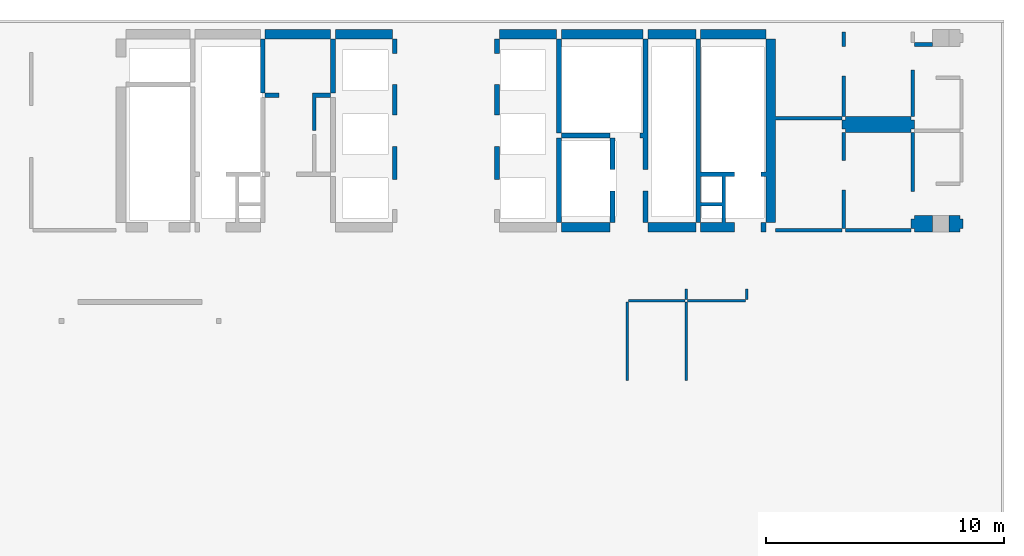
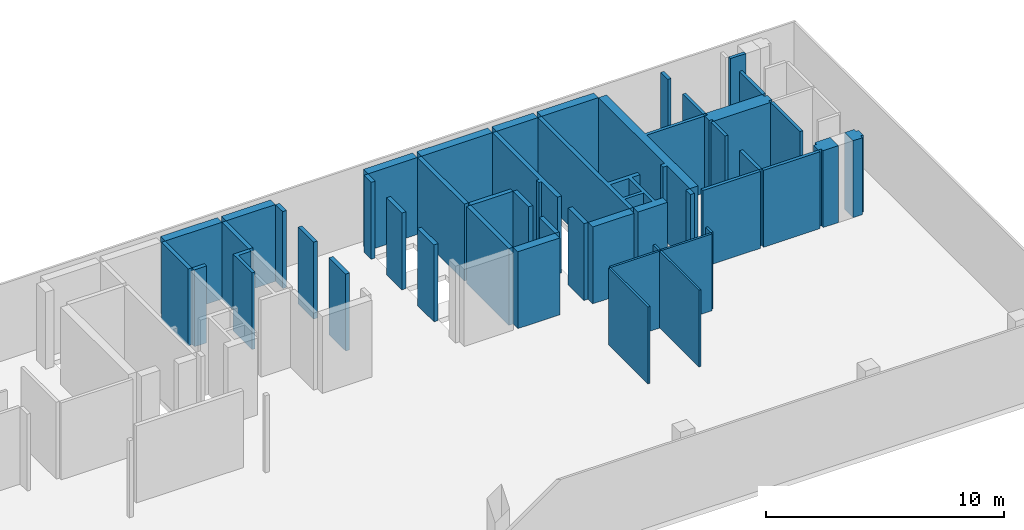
# One storey, part 2 of 4: 46 walls.
"""IFC4 building model written with IfcOpenShell, lengths in millimetres."""

from ifc_helpers import new_model, si_unit, frame, origin, place, context, project, spatial, triangles, element, save


model = new_model("IFC4")

# Units and contexts
model_context = context("Model", 3, precision=0.001, world=origin())
ifc_project = project(units=[si_unit("LENGTHUNIT", "METRE", prefix="MILLI"), si_unit("AREAUNIT", "SQUARE_METRE"), si_unit("VOLUMEUNIT", "CUBIC_METRE")], contexts=[model_context])

# Site, building, storey
site_placement = place(None, origin())
site = spatial("IfcSite", under=ifc_project, at=site_placement, Name="Site", CompositionType="ELEMENT")
building_placement = place(site_placement, origin())
building = spatial("IfcBuilding", under=site, at=building_placement, Name="INNOCEAN", CompositionType="ELEMENT")
storey_placement = place(building_placement, frame((0.0, 0.0, 38600.0)))
storey = spatial("IfcBuildingStorey", under=building, at=storey_placement, Name="F09", CompositionType="ELEMENT", Elevation=38600.0)

# Walls
wall_1_placement = place(storey_placement, origin())
element("IfcWall", 1, at=wall_1_placement, inside=storey, Name="F09_Walls_F09_019", context=model_context, shape_type="Tessellation", body=[
    triangles([(19374.1, 22765.0, 0.0), (19374.1, 25025.8, 0.0), (19374.1, 25025.8, 3950.0), (19374.1, 22765.0, 3950.0), (19183.7, 22765.0, 0.0), (19183.7, 22765.0, 3950.0), (19183.7, 25025.8, 0.0), (19183.7, 25025.8, 3950.0)], [[1, 2, 3], [1, 3, 4], [5, 1, 4], [5, 4, 6], [7, 5, 6], [7, 6, 8], [2, 7, 8], [2, 8, 3], [7, 2, 1], [7, 1, 5], [3, 8, 4], [4, 8, 6]], closed=True),
])
wall_2_placement = place(storey_placement, origin())
element("IfcWall", 2, at=wall_2_placement, inside=storey, Name="F09_Walls_F09_026", context=model_context, shape_type="Tessellation", body=[
    triangles([(33869.8, 17316.1, 0.0), (33869.8, 17316.1, 3950.0), (33869.8, 16922.4, 3950.0), (33869.8, 16922.4, 0.0), (31826.2, 16922.4, 0.0), (31826.2, 16922.4, 3950.0), (31826.2, 17316.1, 3950.0), (31826.2, 17316.1, 0.0)], [[1, 2, 3], [4, 1, 3], [5, 4, 3], [5, 3, 6], [5, 6, 7], [8, 5, 7], [1, 8, 7], [1, 7, 2], [8, 1, 4], [8, 4, 5], [2, 7, 3], [3, 7, 6]], closed=True),
])
wall_3_placement = place(storey_placement, origin())
element("IfcWall", 3, at=wall_3_placement, inside=storey, Name="F09_Walls_F09_030", context=model_context, shape_type="Tessellation", body=[
    triangles([(31826.2, 20872.5, 0.0), (31826.2, 20872.5, 3950.0), (31826.2, 17316.1, 3950.0), (31826.2, 17316.1, 0.0), (31623.1, 17316.1, 3950.0), (31623.1, 17316.1, 0.0), (31623.1, 20872.5, 3950.0), (31623.1, 20872.5, 0.0)], [[1, 2, 3], [4, 1, 3], [4, 3, 5], [6, 4, 5], [6, 5, 7], [8, 6, 7], [8, 7, 2], [1, 8, 2], [8, 1, 4], [8, 4, 6], [2, 7, 3], [3, 7, 5]], closed=True),
])
wall_4_placement = place(storey_placement, origin())
element("IfcWall", 4, at=wall_4_placement, inside=storey, Name="F09_Walls_F09_033", context=model_context, shape_type="Tessellation", body=[
    triangles([(29020.0, 20515.0, 0.0), (29020.0, 19120.0, 0.0), (29020.0, 19120.0, 3950.0), (29020.0, 20515.0, 3950.0), (29020.9, 20515.0, 0.0), (29020.9, 20515.0, 3950.0), (29020.9, 20516.8, 3950.0), (29020.9, 20516.8, 0.0), (29224.0, 20516.8, 0.0), (29224.0, 20516.8, 3950.0), (29224.0, 20515.0, 3950.0), (29224.0, 20515.0, 0.0), (29225.0, 20515.0, 0.0), (29225.0, 20515.0, 3950.0), (29225.0, 19120.0, 0.0), (29225.0, 19120.0, 3950.0), (29224.0, 19120.0, 0.0), (29224.0, 19120.0, 3950.0), (29224.0, 19119.7, 0.0), (29224.0, 19119.7, 3950.0), (29020.9, 19119.7, 0.0), (29020.9, 19119.7, 3950.0), (29020.9, 19120.0, 0.0), (29020.9, 19120.0, 3950.0)], [[1, 2, 3], [1, 3, 4], [5, 1, 4], [5, 4, 6], [5, 6, 7], [8, 5, 7], [9, 8, 7], [9, 7, 10], [9, 10, 11], [12, 9, 11], [13, 12, 11], [13, 11, 14], [15, 13, 14], [15, 14, 16], [17, 15, 16], [17, 16, 18], [19, 17, 18], [19, 18, 20], [21, 19, 20], [21, 20, 22], [23, 21, 22], [23, 22, 24], [2, 23, 24], [2, 24, 3], [23, 17, 19], [23, 19, 21], [12, 13, 15], [12, 15, 17], [12, 17, 23], [5, 12, 23], [1, 23, 2], [1, 5, 23], [8, 9, 12], [8, 12, 5], [18, 24, 20], [20, 24, 22], [14, 11, 16], [16, 11, 18], [18, 11, 24], [11, 6, 24], [24, 4, 3], [6, 4, 24], [10, 7, 11], [11, 7, 6]], closed=True),
])
wall_5_placement = place(storey_placement, origin())
element("IfcWall", 5, at=wall_5_placement, inside=storey, Name="F09_Walls_F09_034", context=model_context, shape_type="Tessellation", body=[
    triangles([(24730.0, 20515.0, 0.0), (24730.0, 19120.0, 0.0), (24730.0, 19120.0, 3950.0), (24730.0, 20515.0, 3950.0), (24730.6, 20515.0, 0.0), (24730.6, 20515.0, 3950.0), (24730.6, 20516.8, 3950.0), (24730.6, 20516.8, 0.0), (24921.0, 20516.8, 0.0), (24921.0, 20516.8, 3950.0), (24921.0, 19119.7, 0.0), (24921.0, 19119.7, 3950.0), (24730.6, 19119.7, 0.0), (24730.6, 19119.7, 3950.0), (24730.6, 19120.0, 0.0), (24730.6, 19120.0, 3950.0)], [[1, 2, 3], [1, 3, 4], [5, 1, 4], [5, 4, 6], [5, 6, 7], [8, 5, 7], [9, 8, 7], [9, 7, 10], [11, 9, 10], [11, 10, 12], [13, 11, 12], [13, 12, 14], [15, 13, 14], [15, 14, 16], [2, 15, 16], [2, 16, 3], [15, 11, 13], [5, 9, 11], [5, 11, 15], [1, 15, 2], [1, 5, 15], [8, 9, 5], [12, 16, 14], [10, 6, 12], [12, 6, 16], [16, 4, 3], [6, 4, 16], [10, 7, 6]], closed=True),
])
wall_6_placement = place(storey_placement, origin())
element("IfcWall", 6, at=wall_6_placement, inside=storey, Name="F09_Walls_F09_035", context=model_context, shape_type="Tessellation", body=[
    triangles([(34072.9, 19551.5, 0.0), (34072.9, 20872.5, 0.0), (34072.9, 20872.5, 3950.0), (34072.9, 19551.5, 3950.0), (33869.8, 19551.5, 0.0), (33869.8, 19551.5, 3950.0), (33869.8, 20872.5, 0.0), (33869.8, 20872.5, 3950.0)], [[1, 2, 3], [1, 3, 4], [5, 1, 4], [5, 4, 6], [7, 5, 6], [7, 6, 8], [2, 7, 8], [2, 8, 3], [7, 2, 1], [7, 1, 5], [3, 8, 4], [4, 8, 6]], closed=True),
])
wall_7_placement = place(storey_placement, origin())
element("IfcWall", 7, at=wall_7_placement, inside=storey, Name="F09_Walls_F09_036", context=model_context, shape_type="Tessellation", body=[
    triangles([(33869.8, 20872.5, 0.0), (33869.8, 21075.7, 0.0), (33869.8, 21075.7, 3950.0), (33869.8, 20872.5, 3950.0), (31826.2, 20872.5, 0.0), (31826.2, 20872.5, 3950.0), (31826.2, 21075.7, 0.0), (31826.2, 21075.7, 3950.0)], [[1, 2, 3], [1, 3, 4], [5, 1, 4], [5, 4, 6], [7, 5, 6], [7, 6, 8], [2, 7, 8], [2, 8, 3], [7, 2, 1], [7, 1, 5], [3, 8, 4], [4, 8, 6]], closed=True),
])
wall_8_placement = place(storey_placement, origin())
element("IfcWall", 8, at=wall_8_placement, inside=storey, Name="F09_Walls_F09_039", context=model_context, shape_type="Tessellation", body=[
    triangles([(22128.5, 22765.0, 0.0), (21366.9, 22765.0, 0.0), (21366.9, 22765.0, 3950.0), (22128.5, 22765.0, 3950.0), (22128.5, 22574.4, 3950.0), (22128.5, 22574.4, 0.0), (21519.3, 22574.4, 0.0), (21519.3, 22574.4, 3950.0), (21519.3, 21177.3, 0.0), (21519.3, 21177.3, 3950.0), (21366.9, 21177.3, 0.0), (21366.9, 21177.3, 3950.0), (21366.9, 22574.4, 0.0), (21366.9, 22574.4, 3950.0)], [[1, 2, 3], [1, 3, 4], [1, 4, 5], [6, 1, 5], [7, 6, 5], [7, 5, 8], [9, 7, 8], [9, 8, 10], [11, 9, 10], [11, 10, 12], [13, 11, 12], [13, 12, 14], [13, 14, 3], [2, 13, 3], [7, 1, 6], [13, 7, 9], [13, 9, 11], [2, 1, 7], [2, 7, 13], [4, 8, 5], [8, 14, 10], [10, 14, 12], [4, 3, 8], [8, 3, 14]], closed=True),
])
wall_9_placement = place(storey_placement, origin())
element("IfcWall", 9, at=wall_9_placement, inside=storey, Name="F09_Walls_F09_040", context=model_context, shape_type="Tessellation", body=[
    triangles([(24730.6, 23120.6, 0.0), (24730.6, 23120.0, 0.0), (24730.6, 23120.0, 3950.0), (24730.6, 23120.6, 3950.0), (24921.0, 23120.6, 0.0), (24921.0, 23120.6, 3950.0), (24921.0, 21825.1, 0.0), (24921.0, 21825.1, 3950.0), (24920.0, 21825.1, 0.0), (24920.0, 21825.1, 3950.0), (24920.0, 21825.0, 0.0), (24920.0, 21825.0, 3950.0), (24730.0, 21825.0, 0.0), (24730.0, 21825.0, 3950.0), (24730.0, 23120.0, 3950.0), (24730.0, 23120.0, 0.0)], [[1, 2, 3], [1, 3, 4], [5, 1, 4], [5, 4, 6], [7, 5, 6], [7, 6, 8], [9, 7, 8], [9, 8, 10], [11, 9, 10], [11, 10, 12], [13, 11, 12], [13, 12, 14], [13, 14, 15], [16, 13, 15], [2, 16, 15], [2, 15, 3], [13, 9, 11], [5, 7, 9], [2, 5, 9], [2, 9, 13], [1, 5, 2], [16, 2, 13], [10, 14, 12], [8, 6, 10], [6, 3, 10], [10, 3, 14], [6, 4, 3], [3, 15, 14]], closed=True),
])
wall_10_placement = place(storey_placement, origin())
element("IfcWall", 10, at=wall_10_placement, inside=storey, Name="F09_Walls_F09_041", context=model_context, shape_type="Tessellation", body=[
    triangles([(29225.0, 23120.0, 0.0), (29225.0, 23120.0, 3950.0), (29225.0, 21825.0, 3950.0), (29225.0, 21825.0, 0.0), (29020.0, 21825.0, 0.0), (29020.0, 21825.0, 3950.0), (29020.0, 23120.0, 3950.0), (29020.0, 23120.0, 0.0), (29020.9, 23120.0, 0.0), (29020.9, 23120.0, 3950.0), (29020.9, 23120.6, 0.0), (29020.9, 23120.6, 3950.0), (29224.0, 23120.6, 0.0), (29224.0, 23120.6, 3950.0), (29224.0, 23120.0, 0.0), (29224.0, 23120.0, 3950.0)], [[1, 2, 3], [4, 1, 3], [5, 4, 3], [5, 3, 6], [5, 6, 7], [8, 5, 7], [9, 8, 7], [9, 7, 10], [11, 9, 10], [11, 10, 12], [13, 11, 12], [13, 12, 14], [15, 13, 14], [15, 14, 16], [1, 15, 16], [1, 16, 2], [15, 1, 4], [15, 4, 5], [9, 15, 5], [11, 13, 15], [11, 15, 9], [8, 9, 5], [2, 16, 3], [3, 16, 6], [16, 10, 6], [14, 12, 16], [16, 12, 10], [10, 7, 6]], closed=True),
])
wall_11_placement = place(storey_placement, origin())
element("IfcWall", 11, at=wall_11_placement, inside=storey, Name="F09_Walls_F09_042", context=model_context, shape_type="Tessellation", body=[
    triangles([(19970.7, 22765.0, 0.0), (19970.7, 22765.0, 3950.0), (19970.7, 22574.4, 3950.0), (19970.7, 22574.4, 0.0), (19374.1, 22574.4, 0.0), (19374.1, 22574.4, 3950.0), (19374.1, 22765.0, 3950.0), (19374.1, 22765.0, 0.0)], [[1, 2, 3], [4, 1, 3], [5, 4, 3], [5, 3, 6], [5, 6, 7], [8, 5, 7], [1, 8, 7], [1, 7, 2], [8, 1, 4], [8, 4, 5], [2, 7, 3], [3, 7, 6]], closed=True),
])
wall_12_placement = place(storey_placement, origin())
element("IfcWall", 12, at=wall_12_placement, inside=storey, Name="F09_Walls_F09_043", context=model_context, shape_type="Tessellation", body=[
    triangles([(31826.2, 21075.7, 3950.0), (31826.2, 25025.8, 0.0), (31826.2, 25025.8, 3950.0), (31826.2, 21075.7, 0.0), (31623.1, 21075.7, 3950.0), (31623.1, 21075.7, 0.0), (31623.1, 25025.8, 3950.0), (31623.1, 25025.8, 0.0)], [[1, 2, 3], [4, 2, 1], [4, 1, 5], [6, 4, 5], [7, 6, 5], [8, 6, 7], [8, 7, 3], [2, 8, 3], [2, 4, 6], [8, 2, 6], [1, 3, 5], [3, 7, 5]], closed=True),
])
wall_13_placement = place(storey_placement, origin())
element("IfcWall", 13, at=wall_13_placement, inside=storey, Name="F09_Walls_F09_044", context=model_context, shape_type="Tessellation", body=[
    triangles([(22331.6, 22765.0, 0.0), (22331.6, 25025.8, 0.0), (22331.6, 25025.8, 3950.0), (22331.6, 22765.0, 3950.0), (22128.5, 22765.0, 0.0), (22128.5, 22765.0, 3950.0), (22128.5, 25025.8, 0.0), (22128.5, 25025.8, 3950.0)], [[1, 2, 3], [1, 3, 4], [5, 1, 4], [5, 4, 6], [7, 5, 6], [7, 6, 8], [2, 7, 8], [2, 8, 3], [7, 2, 1], [7, 1, 5], [3, 8, 4], [4, 8, 6]], closed=True),
])
wall_14_placement = place(storey_placement, origin())
element("IfcWall", 14, at=wall_14_placement, inside=storey, Name="F09_Walls_F09_045", context=model_context, shape_type="Tessellation", body=[
    triangles([(29224.0, 24416.1, 0.0), (29224.0, 25025.8, 0.0), (29224.0, 25025.8, 3950.0), (29224.0, 24416.1, 3950.0), (29020.9, 24416.1, 0.0), (29020.9, 24416.1, 3950.0), (29020.9, 25025.8, 0.0), (29020.9, 25025.8, 3950.0)], [[1, 2, 3], [1, 3, 4], [5, 1, 4], [5, 4, 6], [7, 5, 6], [7, 6, 8], [2, 7, 8], [2, 8, 3], [7, 2, 1], [7, 1, 5], [3, 8, 4], [4, 8, 6]], closed=True),
])
wall_15_placement = place(storey_placement, origin())
element("IfcWall", 15, at=wall_15_placement, inside=storey, Name="F09_Walls_F09_046", context=model_context, shape_type="Tessellation", body=[
    triangles([(24730.6, 25025.8, 0.0), (24730.6, 24416.1, 0.0), (24730.6, 24416.1, 3950.0), (24730.6, 25025.8, 3950.0), (24921.0, 25025.8, 0.0), (24921.0, 25025.8, 3950.0), (24921.0, 24416.1, 0.0), (24921.0, 24416.1, 3950.0)], [[1, 2, 3], [1, 3, 4], [5, 1, 4], [5, 4, 6], [7, 5, 6], [7, 6, 8], [2, 7, 8], [2, 8, 3], [1, 5, 7], [1, 7, 2], [6, 4, 8], [8, 4, 3]], closed=True),
])
wall_16_placement = place(storey_placement, origin())
element("IfcWall", 16, at=wall_16_placement, inside=storey, Name="F09_Walls_F09_047", context=model_context, shape_type="Tessellation", body=[
    triangles([(22331.6, 25025.8, 0.0), (24730.6, 25025.8, 0.0), (24730.6, 25025.8, 3950.0), (22331.6, 25025.8, 3950.0), (22331.6, 25419.5, 0.0), (22331.6, 25419.5, 3950.0), (24730.6, 25419.5, 0.0), (24730.6, 25419.5, 3950.0)], [[1, 2, 3], [1, 3, 4], [5, 1, 4], [5, 4, 6], [7, 5, 6], [7, 6, 8], [2, 7, 8], [2, 8, 3], [5, 2, 1], [5, 7, 2], [3, 6, 4], [8, 6, 3]], closed=True),
])
wall_17_placement = place(storey_placement, origin())
element("IfcWall", 17, at=wall_17_placement, inside=storey, Name="F09_Walls_F09_048", context=model_context, shape_type="Tessellation", body=[
    triangles([(29224.0, 25025.8, 0.0), (31623.1, 25025.8, 0.0), (31623.1, 25025.8, 3950.0), (29224.0, 25025.8, 3950.0), (29224.0, 25419.5, 0.0), (29224.0, 25419.5, 3950.0), (31623.1, 25419.5, 0.0), (31623.1, 25419.5, 3950.0)], [[1, 2, 3], [1, 3, 4], [5, 1, 4], [5, 4, 6], [7, 5, 6], [7, 6, 8], [2, 7, 8], [2, 8, 3], [5, 2, 1], [5, 7, 2], [3, 6, 4], [8, 6, 3]], closed=True),
])
wall_18_placement = place(storey_placement, origin())
element("IfcWall", 18, at=wall_18_placement, inside=storey, Name="F09_Walls_F09_049", context=model_context, shape_type="Tessellation", body=[
    triangles([(22128.5, 25025.8, 0.0), (22128.5, 25419.5, 0.0), (22128.5, 25419.5, 3950.0), (22128.5, 25025.8, 3950.0), (19374.1, 25025.8, 0.0), (19374.1, 25025.8, 3950.0), (19374.1, 25419.5, 0.0), (19374.1, 25419.5, 3950.0)], [[1, 2, 3], [1, 3, 4], [5, 1, 4], [5, 4, 6], [7, 5, 6], [7, 6, 8], [2, 7, 8], [2, 8, 3], [7, 2, 1], [7, 1, 5], [3, 8, 4], [4, 8, 6]], closed=True),
])
wall_19_placement = place(storey_placement, origin())
element("IfcWall", 19, at=wall_19_placement, inside=storey, Name="F09_Walls_F09_050", context=model_context, shape_type="Tessellation", body=[
    triangles([(35266.0, 25025.8, 0.0), (35266.0, 25419.5, 0.0), (35266.0, 25419.5, 3950.0), (35266.0, 25025.8, 3950.0), (31826.2, 25025.8, 0.0), (31826.2, 25025.8, 3950.0), (31826.2, 25419.5, 0.0), (31826.2, 25419.5, 3950.0)], [[1, 2, 3], [1, 3, 4], [5, 1, 4], [5, 4, 6], [7, 5, 6], [7, 6, 8], [2, 7, 8], [2, 8, 3], [7, 2, 1], [7, 1, 5], [3, 8, 4], [4, 8, 6]], closed=True),
])
wall_20_placement = place(storey_placement, origin())
element("IfcWall", 20, at=wall_20_placement, inside=storey, Name="F09_Walls_F09_051", context=model_context, shape_type="Tessellation", body=[
    triangles([(34644.0, 10673.3, 0.0), (34644.0, 13975.7, 0.0), (34644.0, 13975.7, 3950.0), (34644.0, 10673.3, 3950.0), (34542.5, 10673.3, 0.0), (34542.5, 10673.3, 3950.0), (34542.5, 13975.7, 0.0), (34542.5, 13975.7, 3950.0)], [[1, 2, 3], [1, 3, 4], [5, 1, 4], [5, 4, 6], [7, 5, 6], [7, 6, 8], [2, 7, 8], [2, 8, 3], [7, 2, 1], [7, 1, 5], [3, 8, 4], [4, 8, 6]], closed=True),
])
wall_21_placement = place(storey_placement, origin())
element("IfcWall", 21, at=wall_21_placement, inside=storey, Name="F09_Walls_F09_052", context=model_context, shape_type="Tessellation", body=[
    triangles([(37119.2, 10673.3, 0.0), (37119.2, 13975.7, 0.0), (37119.2, 13975.7, 3950.0), (37119.2, 10673.3, 3950.0), (37017.7, 10673.3, 0.0), (37017.7, 10673.3, 3950.0), (37017.7, 13975.7, 0.0), (37017.7, 13975.7, 3950.0)], [[1, 2, 3], [1, 3, 4], [5, 1, 4], [5, 4, 6], [7, 5, 6], [7, 6, 8], [2, 7, 8], [2, 8, 3], [7, 2, 1], [7, 1, 5], [3, 8, 4], [4, 8, 6]], closed=True),
])
wall_22_placement = place(storey_placement, origin())
element("IfcWall", 22, at=wall_22_placement, inside=storey, Name="F09_Walls_F09_053", context=model_context, shape_type="Tessellation", body=[
    triangles([(37017.7, 13975.7, 0.0), (37017.7, 14077.3, 0.0), (37017.7, 14077.3, 3950.0), (37017.7, 13975.7, 3950.0), (34644.0, 13975.7, 0.0), (34644.0, 13975.7, 3950.0), (34644.0, 14077.3, 0.0), (34644.0, 14077.3, 3950.0)], [[1, 2, 3], [1, 3, 4], [5, 1, 4], [5, 4, 6], [7, 5, 6], [7, 6, 8], [2, 7, 8], [2, 8, 3], [7, 2, 1], [7, 1, 5], [3, 8, 4], [4, 8, 6]], closed=True),
])
wall_23_placement = place(storey_placement, origin())
element("IfcWall", 23, at=wall_23_placement, inside=storey, Name="F09_Walls_F09_054", context=model_context, shape_type="Tessellation", body=[
    triangles([(39569.0, 13975.7, 0.0), (39569.0, 14077.3, 0.0), (39569.0, 14077.3, 3950.0), (39569.0, 13975.7, 3950.0), (37119.2, 13975.7, 0.0), (37119.2, 13975.7, 3950.0), (37119.2, 14077.3, 0.0), (37119.2, 14077.3, 3950.0)], [[1, 2, 3], [1, 3, 4], [5, 1, 4], [5, 4, 6], [7, 5, 6], [7, 6, 8], [2, 7, 8], [2, 8, 3], [5, 2, 1], [7, 2, 5], [3, 6, 4], [3, 8, 6]], closed=True),
])
wall_24_placement = place(storey_placement, origin())
element("IfcWall", 24, at=wall_24_placement, inside=storey, Name="F09_Walls_F09_055", context=model_context, shape_type="Tessellation", body=[
    triangles([(39670.6, 14077.3, 0.0), (39670.6, 14521.8, 0.0), (39670.6, 14521.8, 3950.0), (39670.6, 14077.3, 3950.0), (39569.0, 14077.3, 0.0), (39569.0, 14077.3, 3950.0), (39569.0, 14521.8, 0.0), (39569.0, 14521.8, 3950.0)], [[1, 2, 3], [1, 3, 4], [5, 1, 4], [5, 4, 6], [7, 5, 6], [7, 6, 8], [2, 7, 8], [2, 8, 3], [7, 2, 1], [7, 1, 5], [3, 8, 4], [4, 8, 6]], closed=True),
])
wall_25_placement = place(storey_placement, origin())
element("IfcWall", 25, at=wall_25_placement, inside=storey, Name="F09_Walls_F09_056", context=model_context, shape_type="Tessellation", body=[
    triangles([(37119.2, 14077.3, 0.0), (37119.2, 14521.8, 0.0), (37119.2, 14521.8, 3950.0), (37119.2, 14077.3, 3950.0), (37017.7, 14077.3, 0.0), (37017.7, 14077.3, 3950.0), (37017.7, 14521.8, 0.0), (37017.7, 14521.8, 3950.0)], [[1, 2, 3], [1, 3, 4], [5, 1, 4], [5, 4, 6], [7, 5, 6], [7, 6, 8], [2, 7, 8], [2, 8, 3], [7, 2, 1], [7, 1, 5], [3, 8, 4], [4, 8, 6]], closed=True),
])
wall_26_placement = place(storey_placement, origin())
element("IfcWall", 26, at=wall_26_placement, inside=storey, Name="F09_Walls_F09_057", context=model_context, shape_type="Tessellation", body=[
    triangles([(43618.2, 16922.4, 0.0), (43618.2, 17074.8, 0.0), (43618.2, 17074.8, 3950.0), (43618.2, 16922.4, 3950.0), (40813.0, 16922.4, 0.0), (40813.0, 16922.4, 3950.0), (40813.0, 17074.8, 0.0), (40813.0, 17074.8, 3950.0)], [[1, 2, 3], [1, 3, 4], [5, 1, 4], [5, 4, 6], [7, 5, 6], [7, 6, 8], [2, 7, 8], [2, 8, 3], [5, 2, 1], [7, 2, 5], [3, 6, 4], [3, 8, 6]], closed=True),
])
wall_27_placement = place(storey_placement, origin())
element("IfcWall", 27, at=wall_27_placement, inside=storey, Name="F09_Walls_F09_058", context=model_context, shape_type="Tessellation", body=[
    triangles([(37665.0, 16922.4, 0.0), (37665.0, 16922.4, 3950.0), (37665.0, 17316.1, 3950.0), (37665.0, 17316.1, 0.0), (39099.4, 16922.4, 0.0), (39099.4, 16922.4, 3950.0), (39099.4, 17316.1, 0.0), (39099.4, 17316.1, 3950.0), (38720.0, 17316.1, 0.0), (38720.0, 17316.1, 3950.0), (38720.0, 19245.0, 0.0), (38720.0, 19245.0, 3950.0), (39100.0, 19245.0, 0.0), (39100.0, 19245.0, 3950.0), (39100.0, 19450.0, 0.0), (39100.0, 19450.0, 3950.0), (37665.0, 19450.0, 0.0), (37665.0, 19450.0, 3950.0), (37665.0, 25025.8, 0.0), (37665.0, 25025.8, 3950.0), (37474.6, 25025.8, 0.0), (37474.6, 25025.8, 3950.0), (37474.6, 19449.9, 0.0), (37474.6, 19449.9, 3950.0), (37474.6, 17316.1, 0.0), (37474.6, 17316.1, 3950.0), (37665.0, 18014.7, 0.0), (37665.0, 18014.7, 3950.0), (38565.0, 18014.7, 0.0), (38565.0, 18014.7, 3950.0), (38565.0, 17316.1, 0.0), (38565.0, 17316.1, 3950.0), (38565.0, 19245.0, 0.0), (38565.0, 18167.1, 0.0), (38565.0, 18167.1, 3950.0), (38565.0, 19245.0, 3950.0), (37665.0, 18167.1, 0.0), (37665.0, 18167.1, 3950.0), (37665.0, 19245.0, 0.0), (37665.0, 19245.0, 3950.0)], [[1, 2, 3], [4, 1, 3], [1, 5, 6], [1, 6, 2], [7, 8, 6], [5, 7, 6], [7, 9, 10], [7, 10, 8], [9, 11, 12], [9, 12, 10], [13, 14, 12], [11, 13, 12], [13, 15, 16], [13, 16, 14], [15, 17, 18], [15, 18, 16], [17, 19, 20], [17, 20, 18], [19, 21, 22], [19, 22, 20], [21, 23, 24], [21, 24, 22], [23, 25, 26], [23, 26, 24], [25, 4, 3], [25, 3, 26], [4, 27, 28], [4, 28, 3], [27, 29, 30], [27, 30, 28], [29, 31, 32], [29, 32, 30], [31, 4, 3], [31, 3, 32], [33, 34, 35], [33, 35, 36], [34, 37, 38], [34, 38, 35], [37, 39, 40], [37, 40, 38], [39, 33, 36], [39, 36, 40], [9, 7, 5], [31, 9, 5], [1, 31, 5], [29, 9, 31], [4, 31, 1], [27, 4, 25], [37, 29, 27], [37, 34, 29], [37, 27, 25], [11, 15, 13], [33, 11, 34], [33, 15, 11], [17, 33, 39], [17, 15, 33], [23, 39, 37], [23, 17, 39], [23, 37, 25], [21, 19, 17], [21, 17, 23], [11, 9, 29], [11, 29, 34], [8, 10, 6], [10, 32, 6], [32, 2, 6], [10, 30, 32], [32, 3, 2], [3, 28, 26], [30, 38, 28], [35, 38, 30], [28, 38, 26], [16, 12, 14], [12, 36, 35], [16, 36, 12], [36, 18, 40], [16, 18, 36], [40, 24, 38], [18, 24, 40], [38, 24, 26], [20, 22, 18], [18, 22, 24], [10, 12, 30], [30, 12, 35]], closed=True),
])
wall_28_placement = place(storey_placement, origin())
element("IfcWall", 28, at=wall_28_placement, inside=storey, Name="F09_Walls_F09_059", context=model_context, shape_type="Tessellation", body=[
    triangles([(40419.5, 17316.1, 0.0), (40419.5, 17316.1, 3950.0), (40419.5, 16922.4, 3950.0), (40419.5, 16922.4, 0.0), (40216.4, 16922.4, 0.0), (40216.4, 16922.4, 3950.0), (40216.4, 17316.1, 3950.0), (40216.4, 17316.1, 0.0)], [[1, 2, 3], [4, 1, 3], [5, 4, 3], [5, 3, 6], [5, 6, 7], [8, 5, 7], [1, 8, 7], [1, 7, 2], [8, 1, 4], [8, 4, 5], [2, 7, 3], [3, 7, 6]], closed=True),
])
wall_29_placement = place(storey_placement, origin())
element("IfcWall", 29, at=wall_29_placement, inside=storey, Name="F09_Walls_F09_060", context=model_context, shape_type="Tessellation", body=[
    triangles([(37474.6, 17316.1, 0.0), (37474.6, 17316.1, 3950.0), (37474.6, 16922.4, 3950.0), (37474.6, 16922.4, 0.0), (35469.1, 16922.4, 0.0), (35469.1, 16922.4, 3950.0), (35469.1, 17316.1, 3950.0), (35469.1, 17316.1, 0.0)], [[1, 2, 3], [4, 1, 3], [5, 4, 3], [5, 3, 6], [5, 6, 7], [8, 5, 7], [1, 8, 7], [1, 7, 2], [8, 1, 4], [8, 4, 5], [2, 7, 3], [3, 7, 6]], closed=True),
])
wall_30_placement = place(storey_placement, origin())
element("IfcWall", 30, at=wall_30_placement, inside=storey, Name="F09_Walls_F09_061", context=model_context, shape_type="Tessellation", body=[
    triangles([(43770.5, 17074.8, 0.0), (43770.5, 18675.1, 0.0), (43770.5, 18675.1, 3950.0), (43770.5, 17074.8, 3950.0), (43618.2, 17074.8, 0.0), (43618.2, 17074.8, 3950.0), (43618.2, 18675.1, 0.0), (43618.2, 18675.1, 3950.0)], [[1, 2, 3], [1, 3, 4], [5, 1, 4], [5, 4, 6], [7, 5, 6], [7, 6, 8], [2, 7, 8], [2, 8, 3], [2, 1, 5], [7, 2, 5], [4, 3, 6], [3, 8, 6]], closed=True),
])
wall_31_placement = place(storey_placement, origin())
element("IfcWall", 31, at=wall_31_placement, inside=storey, Name="F09_Walls_F09_062", context=model_context, shape_type="Tessellation", body=[
    triangles([(34072.9, 17316.1, 0.0), (34072.9, 18649.7, 0.0), (34072.9, 18649.7, 3950.0), (34072.9, 17316.1, 3950.0), (33869.8, 17316.1, 0.0), (33869.8, 17316.1, 3950.0), (33869.8, 18649.7, 0.0), (33869.8, 18649.7, 3950.0)], [[1, 2, 3], [1, 3, 4], [5, 1, 4], [5, 4, 6], [7, 5, 6], [7, 6, 8], [2, 7, 8], [2, 8, 3], [7, 2, 1], [7, 1, 5], [3, 8, 4], [4, 8, 6]], closed=True),
])
wall_32_placement = place(storey_placement, origin())
element("IfcWall", 32, at=wall_32_placement, inside=storey, Name="F09_Walls_F09_063", context=model_context, shape_type="Tessellation", body=[
    triangles([(35469.1, 17316.1, 0.0), (35469.1, 18649.7, 0.0), (35469.1, 18649.7, 3950.0), (35469.1, 17316.1, 3950.0), (35266.0, 17316.1, 0.0), (35266.0, 17316.1, 3950.0), (35266.0, 18649.7, 0.0), (35266.0, 18649.7, 3950.0)], [[1, 2, 3], [1, 3, 4], [5, 1, 4], [5, 4, 6], [7, 5, 6], [7, 6, 8], [2, 7, 8], [2, 8, 3], [7, 2, 1], [7, 1, 5], [3, 8, 4], [4, 8, 6]], closed=True),
])
wall_33_placement = place(storey_placement, origin())
element("IfcWall", 33, at=wall_33_placement, inside=storey, Name="F09_Walls_F09_064", context=model_context, shape_type="Tessellation", body=[
    triangles([(40813.0, 21774.3, 0.0), (40813.0, 25025.8, 0.0), (40813.0, 25025.8, 3950.0), (40813.0, 21774.3, 3950.0), (43618.2, 21774.3, 0.0), (43618.2, 21774.3, 3950.0), (43618.2, 21621.8, 0.0), (43618.2, 21621.8, 3950.0), (40813.0, 21621.8, 0.0), (40813.0, 21621.8, 3950.0), (40813.0, 19449.9, 0.0), (40813.0, 19449.9, 3950.0), (40813.0, 17316.1, 0.0), (40813.0, 17316.1, 3950.0), (40419.5, 17316.1, 0.0), (40419.5, 17316.1, 3950.0), (40419.5, 19245.0, 0.0), (40419.5, 19245.0, 3950.0), (40215.0, 19245.0, 3950.0), (40215.0, 19245.0, 0.0), (40215.0, 19450.0, 0.0), (40215.0, 19450.0, 3950.0), (40419.5, 19450.0, 3950.0), (40419.5, 19450.0, 0.0), (40419.5, 25025.8, 0.0), (40419.5, 25025.8, 3950.0)], [[1, 2, 3], [1, 3, 4], [5, 1, 4], [5, 4, 6], [7, 5, 6], [7, 6, 8], [9, 7, 8], [9, 8, 10], [11, 9, 10], [11, 10, 12], [13, 11, 12], [13, 12, 14], [15, 13, 14], [15, 14, 16], [17, 15, 16], [17, 16, 18], [17, 18, 19], [20, 17, 19], [21, 20, 19], [21, 19, 22], [21, 22, 23], [24, 21, 23], [25, 24, 23], [25, 23, 26], [2, 25, 26], [2, 26, 3], [17, 11, 13], [17, 13, 15], [24, 17, 20], [24, 11, 17], [21, 24, 20], [9, 11, 24], [1, 5, 7], [1, 7, 9], [25, 2, 1], [24, 25, 1], [24, 1, 9], [12, 18, 14], [14, 18, 16], [18, 23, 19], [12, 23, 18], [23, 22, 19], [12, 10, 23], [6, 4, 8], [8, 4, 10], [3, 26, 4], [26, 23, 4], [4, 23, 10]], closed=True),
])
wall_34_placement = place(storey_placement, origin())
element("IfcWall", 34, at=wall_34_placement, inside=storey, Name="F09_Walls_F09_065", context=model_context, shape_type="Tessellation", body=[
    triangles([(35266.0, 21075.7, 0.0), (35126.4, 21075.7, 0.0), (35126.4, 21075.7, 3950.0), (35266.0, 21075.7, 3950.0), (35266.0, 25025.8, 3950.0), (35266.0, 25025.8, 0.0), (35469.1, 25025.8, 0.0), (35469.1, 25025.8, 3950.0), (35469.1, 21075.7, 3950.0), (35469.1, 21075.7, 0.0), (35469.1, 20872.5, 0.0), (35469.1, 20872.5, 3950.0), (35469.1, 19551.5, 0.0), (35469.1, 19551.5, 3950.0), (35266.0, 19551.5, 0.0), (35266.0, 19551.5, 3950.0), (35266.0, 20872.5, 0.0), (35266.0, 20872.5, 3950.0), (35126.4, 20872.5, 0.0), (35126.4, 20872.5, 3950.0)], [[1, 2, 3], [1, 3, 4], [5, 1, 4], [6, 1, 5], [7, 6, 5], [7, 5, 8], [9, 7, 8], [10, 7, 9], [11, 10, 9], [11, 9, 12], [13, 11, 12], [13, 12, 14], [15, 13, 14], [15, 14, 16], [17, 15, 16], [17, 16, 18], [19, 17, 18], [19, 18, 20], [2, 19, 20], [2, 20, 3], [17, 11, 13], [17, 13, 15], [10, 11, 17], [1, 10, 17], [2, 17, 19], [2, 1, 17], [6, 7, 10], [6, 10, 1], [12, 18, 14], [14, 18, 16], [12, 9, 18], [9, 4, 18], [18, 3, 20], [4, 3, 18], [8, 5, 9], [9, 5, 4]], closed=True),
])
wall_35_placement = place(storey_placement, origin())
element("IfcWall", 35, at=wall_35_placement, inside=storey, Name="F09_Walls_F09_066", context=model_context, shape_type="Tessellation", body=[
    triangles([(43620.0, 24721.0, 0.0), (43620.0, 24720.0, 0.0), (43620.0, 24720.0, 3950.0), (43620.0, 24721.0, 3950.0), (43618.2, 24721.0, 3950.0), (43618.2, 24721.0, 0.0), (43618.2, 25317.9, 0.0), (43618.2, 25317.9, 3950.0), (43620.0, 25317.9, 3950.0), (43620.0, 25317.9, 0.0), (43620.0, 25320.0, 0.0), (43620.0, 25320.0, 3950.0), (43770.0, 25320.0, 3950.0), (43770.0, 25320.0, 0.0), (43770.0, 25317.9, 0.0), (43770.0, 25317.9, 3950.0), (43770.5, 25317.9, 0.0), (43770.5, 25317.9, 3950.0), (43770.5, 24721.0, 0.0), (43770.5, 24721.0, 3950.0), (43770.0, 24721.0, 0.0), (43770.0, 24721.0, 3950.0), (43770.0, 24720.0, 0.0), (43770.0, 24720.0, 3950.0)], [[1, 2, 3], [1, 3, 4], [1, 4, 5], [6, 1, 5], [7, 6, 5], [7, 5, 8], [7, 8, 9], [10, 7, 9], [11, 10, 9], [11, 9, 12], [11, 12, 13], [14, 11, 13], [15, 14, 13], [15, 13, 16], [17, 15, 16], [17, 16, 18], [19, 17, 18], [19, 18, 20], [21, 19, 20], [21, 20, 22], [23, 21, 22], [23, 22, 24], [23, 24, 3], [2, 23, 3], [1, 21, 23], [1, 23, 2], [17, 19, 21], [15, 21, 1], [15, 17, 21], [10, 15, 1], [7, 1, 6], [7, 10, 1], [11, 14, 15], [11, 15, 10], [22, 4, 24], [24, 4, 3], [20, 18, 22], [22, 16, 4], [18, 16, 22], [16, 9, 4], [4, 8, 5], [9, 8, 4], [13, 12, 16], [16, 12, 9]], closed=True),
])
wall_36_placement = place(storey_placement, origin())
element("IfcWall", 36, at=wall_36_placement, inside=storey, Name="F09_Walls_F09_067", context=model_context, shape_type="Tessellation", body=[
    triangles([(37474.6, 25025.8, 0.0), (37474.6, 25419.5, 0.0), (37474.6, 25419.5, 3950.0), (37474.6, 25025.8, 3950.0), (35469.1, 25025.8, 0.0), (35469.1, 25025.8, 3950.0), (35469.1, 25419.5, 0.0), (35469.1, 25419.5, 3950.0)], [[1, 2, 3], [1, 3, 4], [5, 1, 4], [5, 4, 6], [7, 5, 6], [7, 6, 8], [2, 7, 8], [2, 8, 3], [7, 2, 1], [7, 1, 5], [3, 8, 4], [4, 8, 6]], closed=True),
])
wall_37_placement = place(storey_placement, origin())
element("IfcWall", 37, at=wall_37_placement, inside=storey, Name="F09_Walls_F09_068", context=model_context, shape_type="Tessellation", body=[
    triangles([(40419.5, 25025.8, 0.0), (40419.5, 25419.5, 0.0), (40419.5, 25419.5, 3950.0), (40419.5, 25025.8, 3950.0), (37665.0, 25025.8, 0.0), (37665.0, 25025.8, 3950.0), (37665.0, 25419.5, 0.0), (37665.0, 25419.5, 3950.0)], [[1, 2, 3], [1, 3, 4], [5, 1, 4], [5, 4, 6], [7, 5, 6], [7, 6, 8], [2, 7, 8], [2, 8, 3], [7, 2, 1], [7, 1, 5], [3, 8, 4], [4, 8, 6]], closed=True),
])
wall_38_placement = place(storey_placement, origin())
element("IfcWall", 38, at=wall_38_placement, inside=storey, Name="F09_Walls_F09_069", context=model_context, shape_type="Tessellation", body=[
    triangles([(46512.2, 16922.4, 0.0), (46512.2, 17074.8, 0.0), (46512.2, 17074.8, 3950.0), (46512.2, 16922.4, 3950.0), (43770.5, 16922.4, 0.0), (43770.5, 16922.4, 3950.0), (43770.5, 17074.8, 0.0), (43770.5, 17074.8, 3950.0)], [[1, 2, 3], [1, 3, 4], [5, 1, 4], [5, 4, 6], [7, 5, 6], [7, 6, 8], [2, 7, 8], [2, 8, 3], [7, 2, 1], [7, 1, 5], [3, 8, 4], [4, 8, 6]], closed=True),
])
wall_39_placement = place(storey_placement, origin())
element("IfcWall", 39, at=wall_39_placement, inside=storey, Name="F09_Walls_F09_070", context=model_context, shape_type="Tessellation", body=[
    triangles([(47413.4, 17468.5, 0.0), (47413.4, 17620.9, 0.0), (47413.4, 17620.9, 3950.0), (47413.4, 17468.5, 3950.0), (47413.4, 17074.8, 0.0), (47413.4, 17074.8, 3950.0), (47413.4, 16922.4, 0.0), (47413.4, 16922.4, 3950.0), (46664.5, 16922.4, 0.0), (46664.5, 16922.4, 3950.0), (46664.5, 17074.8, 0.0), (46664.5, 17074.8, 3950.0), (46512.2, 17074.8, 0.0), (46512.2, 17074.8, 3950.0), (46512.2, 17468.5, 0.0), (46512.2, 17468.5, 3950.0), (46664.5, 17468.5, 0.0), (46664.5, 17468.5, 3950.0), (46664.5, 17620.9, 0.0), (46664.5, 17620.9, 3950.0)], [[1, 2, 3], [1, 3, 4], [5, 1, 4], [5, 4, 6], [7, 5, 6], [7, 6, 8], [9, 7, 8], [9, 8, 10], [11, 9, 10], [11, 10, 12], [13, 11, 12], [13, 12, 14], [15, 13, 14], [15, 14, 16], [17, 15, 16], [17, 16, 18], [19, 17, 18], [19, 18, 20], [2, 19, 20], [2, 20, 3], [9, 5, 7], [11, 5, 9], [17, 1, 5], [17, 11, 13], [17, 5, 11], [15, 17, 13], [19, 2, 1], [19, 1, 17], [6, 10, 8], [6, 12, 10], [4, 18, 6], [12, 18, 14], [6, 18, 12], [18, 16, 14], [3, 20, 4], [4, 20, 18]], closed=True),
])
wall_40_placement = place(storey_placement, origin())
element("IfcWall", 40, at=wall_40_placement, inside=storey, Name="F09_Walls_F09_071", context=model_context, shape_type="Tessellation", body=[
    triangles([(48111.6, 17620.9, 0.0), (48111.6, 17468.5, 0.0), (48111.6, 17468.5, 3950.0), (48111.6, 17620.9, 3950.0), (48568.5, 17620.9, 0.0), (48568.5, 17620.9, 3950.0), (48568.5, 17468.5, 0.0), (48568.5, 17468.5, 3950.0), (48708.1, 17468.5, 0.0), (48708.1, 17468.5, 3950.0), (48708.1, 17074.8, 0.0), (48708.1, 17074.8, 3950.0), (48568.5, 17074.8, 0.0), (48568.5, 17074.8, 3950.0), (48568.5, 16922.4, 0.0), (48568.5, 16922.4, 3950.0), (48111.6, 16922.4, 0.0), (48111.6, 16922.4, 3950.0), (48111.6, 17074.8, 0.0), (48111.6, 17074.8, 3950.0)], [[1, 2, 3], [1, 3, 4], [5, 1, 4], [5, 4, 6], [7, 5, 6], [7, 6, 8], [9, 7, 8], [9, 8, 10], [11, 9, 10], [11, 10, 12], [13, 11, 12], [13, 12, 14], [15, 13, 14], [15, 14, 16], [17, 15, 16], [17, 16, 18], [19, 17, 18], [19, 18, 20], [2, 19, 20], [2, 20, 3], [7, 9, 11], [7, 11, 13], [19, 13, 15], [19, 15, 17], [19, 7, 13], [2, 7, 19], [1, 5, 7], [1, 7, 2], [10, 8, 12], [12, 8, 14], [14, 20, 16], [16, 20, 18], [8, 20, 14], [8, 3, 20], [6, 4, 8], [8, 4, 3]], closed=True),
])
wall_41_placement = place(storey_placement, origin())
element("IfcWall", 41, at=wall_41_placement, inside=storey, Name="F09_Walls_F09_073", context=model_context, shape_type="Tessellation", body=[
    triangles([(46664.5, 18624.3, 0.0), (46664.5, 21101.1, 0.0), (46664.5, 21101.1, 3950.0), (46664.5, 18624.3, 3950.0), (46512.2, 18624.3, 0.0), (46512.2, 18624.3, 3950.0), (46512.2, 21101.1, 0.0), (46512.2, 21101.1, 3950.0)], [[1, 2, 3], [1, 3, 4], [5, 1, 4], [5, 4, 6], [7, 5, 6], [7, 6, 8], [2, 7, 8], [2, 8, 3], [7, 2, 1], [7, 1, 5], [3, 8, 4], [4, 8, 6]], closed=True),
])
wall_42_placement = place(storey_placement, origin())
element("IfcWall", 42, at=wall_42_placement, inside=storey, Name="F09_Walls_F09_075", context=model_context, shape_type="Tessellation", body=[
    triangles([(43770.5, 19919.9, 0.0), (43770.5, 21101.1, 0.0), (43770.5, 21101.1, 3950.0), (43770.5, 19919.9, 3950.0), (43618.2, 19919.9, 0.0), (43618.2, 19919.9, 3950.0), (43618.2, 21101.1, 0.0), (43618.2, 21101.1, 3950.0)], [[1, 2, 3], [1, 3, 4], [5, 1, 4], [5, 4, 6], [7, 5, 6], [7, 6, 8], [2, 7, 8], [2, 8, 3], [7, 2, 1], [7, 1, 5], [3, 8, 4], [4, 8, 6]], closed=True),
])
wall_43_placement = place(storey_placement, origin())
element("IfcWall", 43, at=wall_43_placement, inside=storey, Name="F09_Walls_F09_076", context=model_context, shape_type="Tessellation", body=[
    triangles([(43770.0, 21240.0, 0.0), (43770.5, 21240.0, 0.0), (43770.5, 21240.0, 3950.0), (43770.0, 21240.0, 3950.0), (43770.0, 21240.8, 0.0), (43770.0, 21240.8, 3950.0), (43618.2, 21240.8, 3950.0), (43618.2, 21240.8, 0.0), (43618.2, 21621.8, 3950.0), (43618.2, 21621.8, 0.0), (43770.5, 21621.8, 0.0), (43770.5, 21621.8, 3950.0), (43770.5, 21774.3, 0.0), (43770.5, 21774.3, 3950.0), (46512.2, 21774.3, 0.0), (46512.2, 21774.3, 3950.0), (46512.2, 21621.8, 0.0), (46512.2, 21621.8, 3950.0), (46664.5, 21621.8, 0.0), (46664.5, 21621.8, 3950.0), (46664.5, 21240.8, 3950.0), (46664.5, 21240.8, 0.0), (46512.2, 21240.8, 0.0), (46512.2, 21240.8, 3950.0), (46512.2, 21101.1, 3950.0), (46512.2, 21101.1, 0.0), (43770.5, 21101.1, 0.0), (43770.5, 21101.1, 3950.0)], [[1, 2, 3], [1, 3, 4], [5, 1, 4], [5, 4, 6], [5, 6, 7], [8, 5, 7], [8, 7, 9], [10, 8, 9], [11, 10, 9], [11, 9, 12], [13, 11, 12], [13, 12, 14], [15, 13, 14], [15, 14, 16], [17, 15, 16], [17, 16, 18], [19, 17, 18], [19, 18, 20], [19, 20, 21], [22, 19, 21], [23, 22, 21], [23, 21, 24], [23, 24, 25], [26, 23, 25], [27, 26, 25], [27, 25, 28], [2, 27, 28], [2, 28, 3], [19, 22, 23], [17, 19, 23], [2, 23, 26], [2, 26, 27], [5, 2, 1], [11, 17, 23], [11, 23, 2], [11, 2, 5], [10, 5, 8], [10, 11, 5], [13, 15, 17], [13, 17, 11], [21, 20, 24], [20, 18, 24], [24, 3, 25], [25, 3, 28], [3, 6, 4], [18, 12, 24], [24, 12, 3], [3, 12, 6], [6, 9, 7], [12, 9, 6], [16, 14, 18], [18, 14, 12]], closed=True),
])
wall_44_placement = place(storey_placement, origin())
element("IfcWall", 44, at=wall_44_placement, inside=storey, Name="F09_Walls_F09_079", context=model_context, shape_type="Tessellation", body=[
    triangles([(43770.5, 21774.3, 0.0), (43770.5, 23476.2, 0.0), (43770.5, 23476.2, 3950.0), (43770.5, 21774.3, 3950.0), (43618.2, 21774.3, 0.0), (43618.2, 21774.3, 3950.0), (43618.2, 23476.2, 0.0), (43618.2, 23476.2, 3950.0)], [[1, 2, 3], [1, 3, 4], [5, 1, 4], [5, 4, 6], [7, 5, 6], [7, 6, 8], [2, 7, 8], [2, 8, 3], [7, 2, 1], [7, 1, 5], [3, 8, 4], [4, 8, 6]], closed=True),
])
wall_45_placement = place(storey_placement, origin())
element("IfcWall", 45, at=wall_45_placement, inside=storey, Name="F09_Walls_F09_080", context=model_context, shape_type="Tessellation", body=[
    triangles([(46664.5, 21774.3, 0.0), (46664.5, 23717.6, 0.0), (46664.5, 23717.6, 3950.0), (46664.5, 21774.3, 3950.0), (46512.2, 21774.3, 0.0), (46512.2, 21774.3, 3950.0), (46512.2, 23717.6, 0.0), (46512.2, 23717.6, 3950.0)], [[1, 2, 3], [1, 3, 4], [5, 1, 4], [5, 4, 6], [7, 5, 6], [7, 6, 8], [2, 7, 8], [2, 8, 3], [7, 2, 1], [7, 1, 5], [3, 8, 4], [4, 8, 6]], closed=True),
])
wall_46_placement = place(storey_placement, origin())
element("IfcWall", 46, at=wall_46_placement, inside=storey, Name="F09_Walls_F09_082", context=model_context, shape_type="Tessellation", body=[
    triangles([(47413.4, 24721.0, 0.0), (47413.4, 24873.4, 0.0), (47413.4, 24873.4, 3950.0), (47413.4, 24721.0, 3950.0), (46664.5, 24721.0, 0.0), (46664.5, 24721.0, 3950.0), (46664.5, 24873.4, 0.0), (46664.5, 24873.4, 3950.0)], [[1, 2, 3], [1, 3, 4], [5, 1, 4], [5, 4, 6], [7, 5, 6], [7, 6, 8], [2, 7, 8], [2, 8, 3], [7, 2, 1], [7, 1, 5], [3, 8, 4], [4, 8, 6]], closed=True),
])

save(model, "model.ifc")
